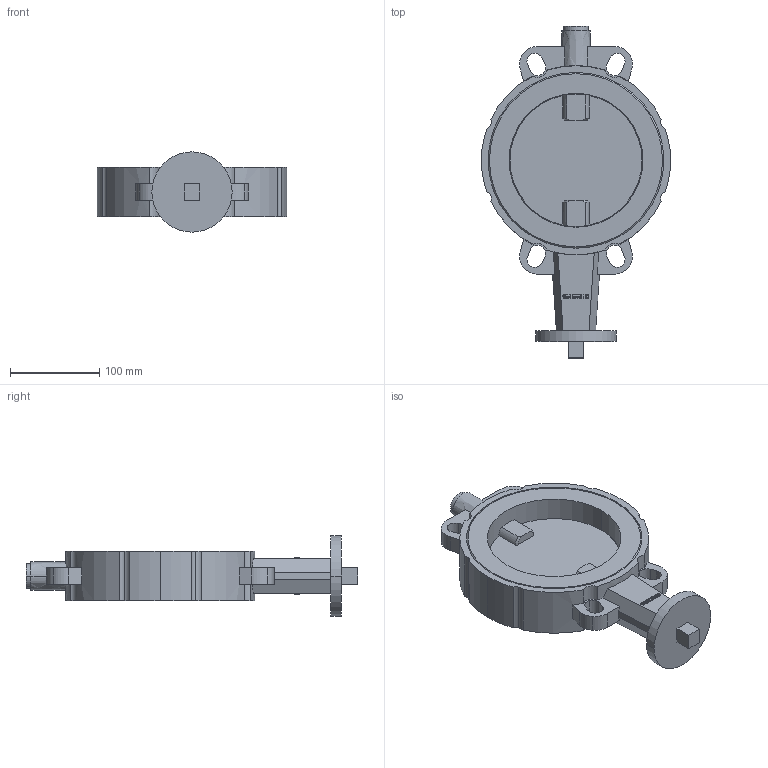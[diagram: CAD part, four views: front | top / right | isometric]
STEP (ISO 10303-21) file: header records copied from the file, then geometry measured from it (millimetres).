
FILE_DESCRIPTION((''),'2;1');
FILE_NAME('KL000016.dwg.stp','2006-10-04T11:30:41',(''),(''),'Mechanical Desktop 2006','Mechanical Desktop 2006',', , ');
FILE_SCHEMA(('AUTOMOTIVE_DESIGN { 1 2 10303 214 0 1 1 1 }'));
Length unit declared in the file: millimetre
Products named in the file (1): Product
Bounding box: 212 x 372 x 90 mm (x, y, z)
Volume: 1401307.3 mm3; surface area: 257461.1 mm2
Topology: 20 solids, 20 shells, 470 faces, 1286 edges, 856 vertices
Faces by surface type: cylinder 226, plane 190, bspline 34, cone 16, sphere 4
Entity records: 15421 total; most frequent: CARTESIAN_POINT 3054, DIRECTION 2672, ORIENTED_EDGE 2572, EDGE_CURVE 1286, AXIS2_PLACEMENT_3D 974, VERTEX_POINT 856, VECTOR 724, LINE 724
